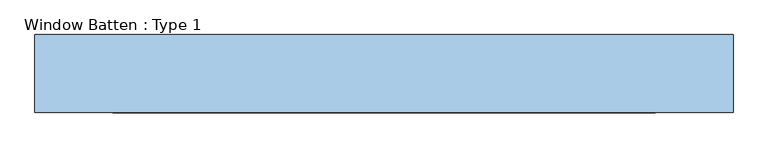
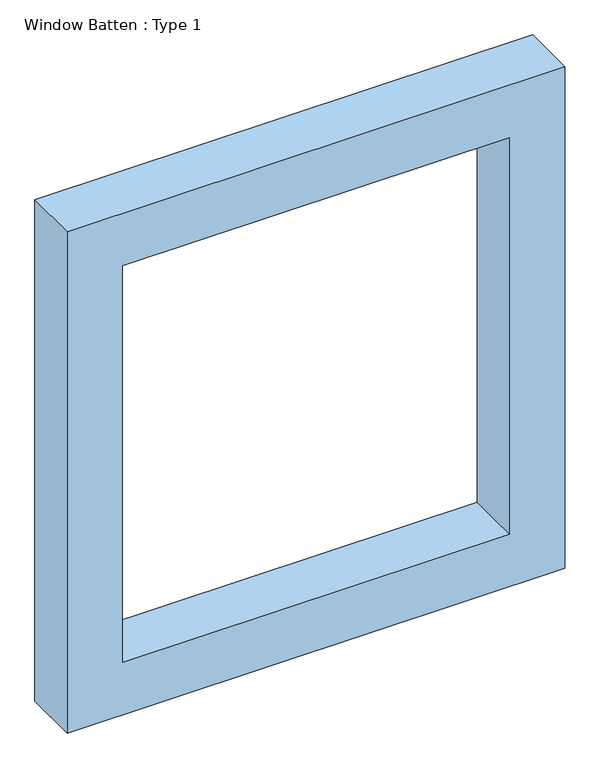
"""IFC4 building model written with IfcOpenShell, lengths in millimetres: window geometry, Window Batten : Type 1."""

from ifc_helpers import new_model, si_unit, frame, origin, place, context, project, spatial, polyline, outline, extrude, source, transform, mapped, element, save


def window_batten_type_1_dd563b97(model_context):
    return source(origin(), model_context, "Body", "SweptSolid", [
        extrude(outline(polyline([(2708.8484214, -769.4322061), (803.768133, -769.4322061), (803.768133, 1019.4322061), (2708.8484214, 1019.4322061), (2708.8484214, -769.4322061)]), holes=[polyline([(2508.8484214, -569.4322061), (2508.8484214, 819.4322061), (1003.768133, 819.4322061), (1003.768133, -569.4322061), (2508.8484214, -569.4322061)])]), frame((0.0, -310.0, 0.0), z_axis=(0.0, 1.0, 0.0), x_axis=(0.0, 0.0, 1.0)), (0.0, 0.0, 1.0), 200.0),
    ])


if __name__ == "__main__":
    model = new_model("IFC4")
    model_context = context("Model", 3, world=origin())
    ifc_project = project(units=[si_unit("LENGTHUNIT", "METRE", prefix="MILLI")], contexts=[model_context])
    site = spatial("IfcSite", under=ifc_project)
    building = spatial("IfcBuilding", under=site)
    placement = place(None, origin())
    window_batten_type_1_shape = window_batten_type_1_dd563b97(model_context)
    element("IfcWindow", 1, ObjectType="Window Batten : Type 1", at=placement, inside=building, context=model_context, shape_type="MappedRepresentation", body=[
        mapped(window_batten_type_1_shape, transform((0.0, 0.0, 0.0), x_axis=(1.0, 0.0, 0.0), y_axis=(0.0, 1.0, 0.0), z_axis=(0.0, 0.0, 1.0))),
    ])
    save(model, "model.ifc")
